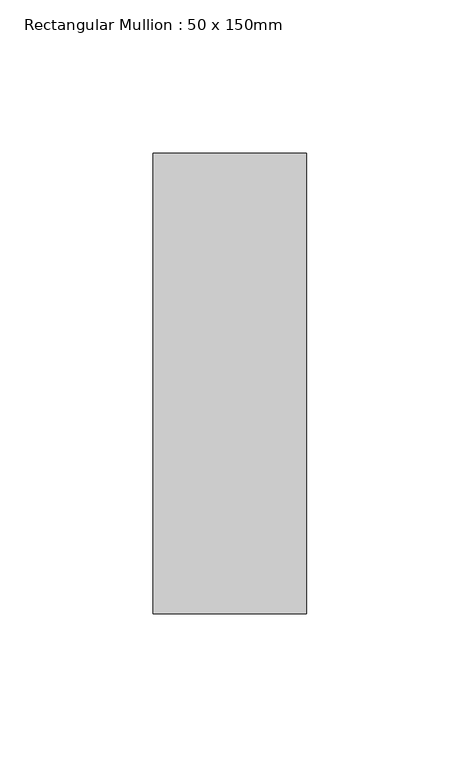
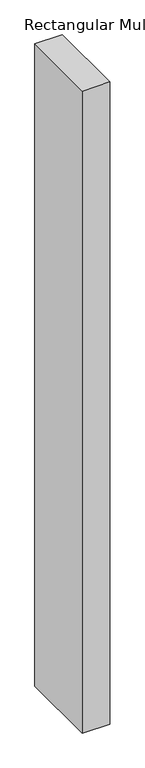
"""IFC4 building model written with IfcOpenShell, lengths in millimetres: member geometry, Rectangular Mullion : 50 x 150mm."""

import ifcopenshell
import ifcopenshell.guid

model = None  # the IFC model being written
_history = None  # IfcOwnerHistory: only IFC2X3 demands one
_inside = {}  # id of a spatial element -> (the spatial element, [elements in it])
_under = {}  # id of a project, library or spatial element -> (it, [spatial elements below it])
_declared = {}  # id of a project -> (the project, [libraries it declares])
_typed = {}  # id of a type object -> (the type object, [elements of that type])
_made_of = {}  # id of a material, layer set ... -> (it, [elements and type objects made of it])


def new_model(schema):
    """Start an empty IFC model of exactly this schema.

    Asked for "IFC4X3", IfcOpenShell would pick the latest addendum, in which some entities
    have other attributes; the version numbers below select the first issue.
    IFC2X3 requires an IfcOwnerHistory on every rooted entity: one is made here for all.
    """
    global model, _history
    if schema == "IFC4X3":
        model = ifcopenshell.file(schema_version=(4, 3, 0, 0))
    else:
        model = ifcopenshell.file(schema=schema)
    _inside.clear()
    _under.clear()
    _declared.clear()
    _typed.clear()
    _made_of.clear()
    _history = None
    if model.schema == "IFC2X3":
        org = make("IfcOrganization", Name="unknown")
        user = make(
            "IfcPersonAndOrganization",
            ThePerson=make("IfcPerson", FamilyName="unknown"),
            TheOrganization=org,
        )
        app = make(
            "IfcApplication",
            ApplicationDeveloper=org,
            Version="unknown",
            ApplicationFullName="unknown",
            ApplicationIdentifier="unknown",
        )
        _history = make(
            "IfcOwnerHistory",
            OwningUser=user,
            OwningApplication=app,
            ChangeAction="ADDED",
            CreationDate=0,
        )
    return model


def make(cls, **values):
    """One entity of the class cls with the attributes given. An attribute that is None is left unset."""
    return model.create_entity(
        cls, **{name: value for name, value in values.items() if value is not None}
    )


def rooted(cls, **values):
    """An entity with a GlobalId (a new one), such as an element, a storey or a relation."""
    return make(cls, GlobalId=ifcopenshell.guid.new(), OwnerHistory=_history, **values)


def si_unit(unit_type, name, prefix=None):
    """IfcSIUnit, for example si_unit("LENGTHUNIT", "METRE", prefix="MILLI")."""
    return make("IfcSIUnit", UnitType=unit_type, Prefix=prefix, Name=name)


def assignment(units):
    """IfcUnitAssignment: the units of a project."""
    return None if units is None else make("IfcUnitAssignment", Units=units)


def point(xyz):
    """IfcCartesianPoint."""
    return None if xyz is None else make("IfcCartesianPoint", Coordinates=xyz)


def direction(xyz):
    """IfcDirection."""
    return None if xyz is None else make("IfcDirection", DirectionRatios=xyz)


def frame(location, z_axis=None, x_axis=None):
    """IfcAxis2Placement3D, a coordinate frame: its origin and axes. An axis left out is left unset."""
    return make(
        "IfcAxis2Placement3D",
        Location=point(location),
        Axis=direction(z_axis),
        RefDirection=direction(x_axis),
    )


def origin():
    """The frame at (0, 0, 0) with its axes left unset."""
    return frame((0.0, 0.0, 0.0))


def place(relative_to, where):
    """IfcLocalPlacement: puts the frame where relative to a parent placement (None: the world)."""
    return make(
        "IfcLocalPlacement", PlacementRelTo=relative_to, RelativePlacement=where
    )


def context(
    kind, dimensions, precision=None, world=None, true_north=None, identifier=None
):
    """IfcGeometricRepresentationContext, for example the 3D "Model" context."""
    return make(
        "IfcGeometricRepresentationContext",
        ContextIdentifier=identifier,
        ContextType=kind,
        CoordinateSpaceDimension=dimensions,
        Precision=precision,
        WorldCoordinateSystem=world,
        TrueNorth=true_north,
    )


def project(units=None, contexts=None):
    """IfcProject with its units and contexts."""
    return rooted(
        "IfcProject",
        Name="project",
        RepresentationContexts=contexts,
        UnitsInContext=assignment(units),
    )


def spatial(cls, under=None, at=None, **own):
    """A site, building, storey or space (cls), placed at a placement, below another one or the project."""
    s = rooted(cls, ObjectPlacement=at, **own)
    if under is not None:
        _under.setdefault(under.id(), (under, []))[1].append(s)
    return s


def polyline(points):
    """IfcPolyline through the points."""
    return make("IfcPolyline", Points=[point(p) for p in points])


def outline(outer, holes=None, kind="AREA"):
    """IfcArbitraryClosedProfileDef: a profile drawn as a closed curve; with holes, ...WithVoids."""
    if holes is None:
        return make("IfcArbitraryClosedProfileDef", ProfileType=kind, OuterCurve=outer)
    return make(
        "IfcArbitraryProfileDefWithVoids",
        ProfileType=kind,
        OuterCurve=outer,
        InnerCurves=holes,
    )


def extrude(swept, where, along, depth):
    """IfcExtrudedAreaSolid: the profile swept, set in the frame where, extruded along a direction by depth."""
    return make(
        "IfcExtrudedAreaSolid",
        SweptArea=swept,
        Position=where,
        ExtrudedDirection=direction(along),
        Depth=depth,
    )


def shape(context_of_items, identifier, shape_type, items):
    """IfcShapeRepresentation: the items that make up one representation, for example the "Body"."""
    return make(
        "IfcShapeRepresentation",
        ContextOfItems=context_of_items,
        RepresentationIdentifier=identifier,
        RepresentationType=shape_type,
        Items=items,
    )


def source(mapping_origin, context_of_items, identifier, shape_type, items):
    """IfcRepresentationMap: a shape defined once, which mapped items show again and again."""
    return make(
        "IfcRepresentationMap",
        MappingOrigin=mapping_origin,
        MappedRepresentation=shape(context_of_items, identifier, shape_type, items),
    )


def transform(
    local_origin,
    x_axis=None,
    y_axis=None,
    z_axis=None,
    scale=None,
    scale2=None,
    scale3=None,
    uniform=True,
):
    """IfcCartesianTransformationOperator3D, or its non-uniform kind. x_axis, y_axis, z_axis: its Axis1, 2, 3."""
    if uniform:
        return make(
            "IfcCartesianTransformationOperator3D",
            Axis1=direction(x_axis),
            Axis2=direction(y_axis),
            LocalOrigin=point(local_origin),
            Scale=scale,
            Axis3=direction(z_axis),
        )
    return make(
        "IfcCartesianTransformationOperator3DnonUniform",
        Axis1=direction(x_axis),
        Axis2=direction(y_axis),
        LocalOrigin=point(local_origin),
        Scale=scale,
        Axis3=direction(z_axis),
        Scale2=scale2,
        Scale3=scale3,
    )


def mapped(mapping_source, mapping_target):
    """IfcMappedItem: shows the shape of a source again, moved by a transform."""
    return make(
        "IfcMappedItem", MappingSource=mapping_source, MappingTarget=mapping_target
    )


def made_of(thing, what):
    """Note that an element or type object is made of a material, layer set ...; save() writes the relation."""
    if what is not None:
        _made_of.setdefault(what.id(), (what, []))[1].append(thing)
    return thing


def element(
    cls,
    number,
    at=None,
    inside=None,
    cuts=None,
    type_object=None,
    material=None,
    context=None,
    identifier="Body",
    shape_type=None,
    held_by="IfcProductDefinitionShape",
    body=None,
    shapes=None,
    **own,
):
    """One element of the class cls, such as IfcWall. Its Tag is "e" and its number.

    at: its placement. inside: the storey or other place that contains it. cuts: it is an
    opening in that element (IfcRelVoidsElement). A single representation is given by context,
    identifier, shape_type and body (its items); several are given by shapes. held_by: the class
    of the entity that holds the representations. save() writes the other relations.
    """
    e = rooted(cls, Tag="e%d" % number, ObjectPlacement=at, **own)
    if body is not None:
        shapes = [shape(context, identifier, shape_type, body)]
    if shapes is not None:
        e.Representation = make(held_by, Representations=shapes)
    if inside is not None:
        _inside.setdefault(inside.id(), (inside, []))[1].append(e)
    if cuts is not None:
        rooted(
            "IfcRelVoidsElement", RelatingBuildingElement=cuts, RelatedOpeningElement=e
        )
    if type_object is not None:
        _typed.setdefault(type_object.id(), (type_object, []))[1].append(e)
    return made_of(e, material)


def aggregate(whole, parts):
    """IfcRelAggregates: a whole, such as a stair, and the parts it consists of."""
    return rooted("IfcRelAggregates", RelatingObject=whole, RelatedObjects=parts)


def save(model, path):
    """Write the relations noted so far, then the file.

    IfcRelAggregates (storeys below a building ...), IfcRelContainedInSpatialStructure (elements
    in a storey), IfcRelDefinesByType, IfcRelAssociatesMaterial and IfcRelDeclares: one each for
    every whole, place, type object, material and project.
    """
    for whole, parts in _under.values():
        aggregate(whole, parts)
    for where, things in _inside.values():
        rooted(
            "IfcRelContainedInSpatialStructure",
            RelatedElements=things,
            RelatingStructure=where,
        )
    for kind, things in _typed.values():
        rooted("IfcRelDefinesByType", RelatedObjects=things, RelatingType=kind)
    for what, things in _made_of.values():
        rooted("IfcRelAssociatesMaterial", RelatedObjects=things, RelatingMaterial=what)
    for by, libraries in _declared.values():
        rooted("IfcRelDeclares", RelatingContext=by, RelatedDefinitions=libraries)
    model.write(path)


def rectangular_mullion_50_x_150mm_bd4d183d(model_context):
    return source(origin(), model_context, "Body", "SweptSolid", [
        extrude(outline(polyline([(0.0, 75.0), (0.0, -75.0), (-50.0, -75.0), (-50.0, 75.0), (0.0, 75.0)])), frame((0.0, 0.0, -1240.5555556), z_axis=(0.0, 0.0, 1.0), x_axis=(1.0, 0.0, 0.0)), (0.0, 0.0, 1.0), 1240.5555556),
    ])


if __name__ == "__main__":
    model = new_model("IFC4")
    model_context = context("Model", 3, world=origin())
    ifc_project = project(units=[si_unit("LENGTHUNIT", "METRE", prefix="MILLI")], contexts=[model_context])
    site = spatial("IfcSite", under=ifc_project)
    building = spatial("IfcBuilding", under=site)
    placement = place(None, origin())
    rectangular_mullion_50_x_150mm_shape = rectangular_mullion_50_x_150mm_bd4d183d(model_context)
    element("IfcMember", 1, ObjectType="Rectangular Mullion : 50 x 150mm", at=placement, inside=building, context=model_context, shape_type="MappedRepresentation", body=[
        mapped(rectangular_mullion_50_x_150mm_shape, transform((0.0, 0.0, 0.0), x_axis=(1.0, 0.0, 0.0), y_axis=(0.0, 1.0, 0.0), z_axis=(0.0, 0.0, 1.0))),
    ])
    save(model, "model.ifc")
